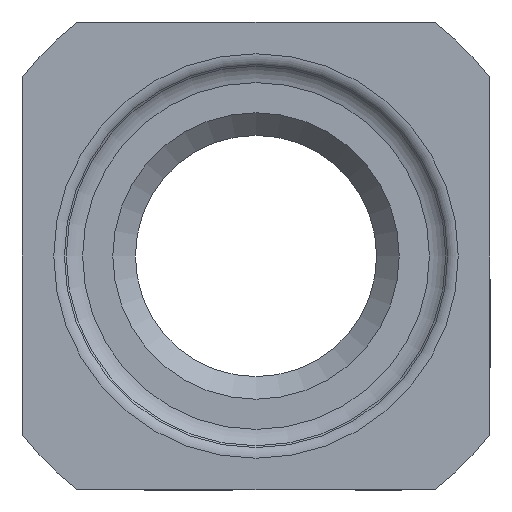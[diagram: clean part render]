
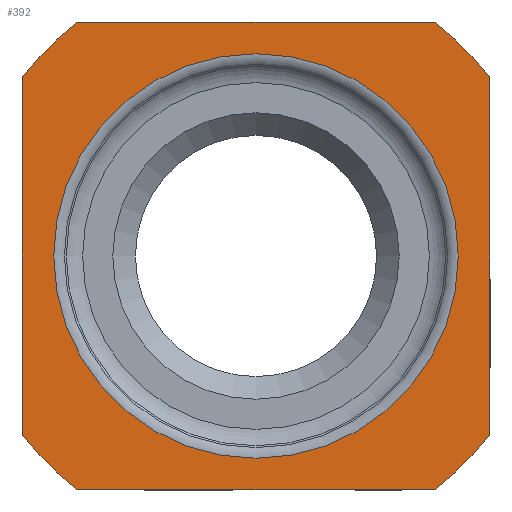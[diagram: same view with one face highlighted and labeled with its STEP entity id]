
A CAD part, front view. The second image highlights one B-rep face of the part: STEP entity #392.
In plain terms, the highlighted planar face has unit normal (0, -1, 0).
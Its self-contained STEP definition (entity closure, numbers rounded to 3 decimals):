
#27=FACE_BOUND('',#78,.T.);
#31=PLANE('',#454);
#51=FACE_OUTER_BOUND('',#77,.T.);
#77=EDGE_LOOP('',(#294,#295,#296,#297,#298,#299,#300,#301));
#78=EDGE_LOOP('',(#302));
#103=LINE('',#669,#121);
#104=LINE('',#673,#122);
#105=LINE('',#677,#123);
#106=LINE('',#680,#124);
#121=VECTOR('',#543,10.);
#122=VECTOR('',#546,10.);
#123=VECTOR('',#549,10.);
#124=VECTOR('',#552,10.);
#143=CIRCLE('',#448,6.707);
#148=CIRCLE('',#455,9.75);
#149=CIRCLE('',#456,9.75);
#150=CIRCLE('',#457,9.75);
#151=CIRCLE('',#458,9.75);
#175=VERTEX_POINT('',#653);
#179=VERTEX_POINT('',#665);
#180=VERTEX_POINT('',#666);
#181=VERTEX_POINT('',#668);
#182=VERTEX_POINT('',#670);
#183=VERTEX_POINT('',#672);
#184=VERTEX_POINT('',#674);
#185=VERTEX_POINT('',#676);
#186=VERTEX_POINT('',#678);
#216=EDGE_CURVE('',#175,#175,#143,.T.);
#222=EDGE_CURVE('',#179,#180,#148,.T.);
#223=EDGE_CURVE('',#180,#181,#103,.T.);
#224=EDGE_CURVE('',#181,#182,#149,.T.);
#225=EDGE_CURVE('',#182,#183,#104,.T.);
#226=EDGE_CURVE('',#183,#184,#150,.T.);
#227=EDGE_CURVE('',#184,#185,#105,.T.);
#228=EDGE_CURVE('',#185,#186,#151,.T.);
#229=EDGE_CURVE('',#186,#179,#106,.T.);
#294=ORIENTED_EDGE('',*,*,#222,.T.);
#295=ORIENTED_EDGE('',*,*,#223,.T.);
#296=ORIENTED_EDGE('',*,*,#224,.T.);
#297=ORIENTED_EDGE('',*,*,#225,.T.);
#298=ORIENTED_EDGE('',*,*,#226,.T.);
#299=ORIENTED_EDGE('',*,*,#227,.T.);
#300=ORIENTED_EDGE('',*,*,#228,.T.);
#301=ORIENTED_EDGE('',*,*,#229,.T.);
#302=ORIENTED_EDGE('',*,*,#216,.F.);
#392=ADVANCED_FACE('',(#51,#27),#31,.T.);
#448=AXIS2_PLACEMENT_3D('',#654,#526,#527);
#454=AXIS2_PLACEMENT_3D('',#664,#539,#540);
#455=AXIS2_PLACEMENT_3D('',#667,#541,#542);
#456=AXIS2_PLACEMENT_3D('',#671,#544,#545);
#457=AXIS2_PLACEMENT_3D('',#675,#547,#548);
#458=AXIS2_PLACEMENT_3D('',#679,#550,#551);
#526=DIRECTION('center_axis',(0.,-1.,0.));
#527=DIRECTION('ref_axis',(0.,0.,-1.));
#539=DIRECTION('center_axis',(0.,-1.,0.));
#540=DIRECTION('ref_axis',(0.,0.,-1.));
#541=DIRECTION('center_axis',(0.,-1.,0.));
#542=DIRECTION('ref_axis',(0.,0.,1.));
#543=DIRECTION('',(0.,0.,-1.));
#544=DIRECTION('center_axis',(0.,-1.,0.));
#545=DIRECTION('ref_axis',(0.,0.,1.));
#546=DIRECTION('',(1.,0.,0.));
#547=DIRECTION('center_axis',(0.,-1.,0.));
#548=DIRECTION('ref_axis',(0.,0.,1.));
#549=DIRECTION('',(0.,0.,1.));
#550=DIRECTION('center_axis',(0.,-1.,0.));
#551=DIRECTION('ref_axis',(0.,0.,1.));
#552=DIRECTION('',(-1.,0.,0.));
#653=CARTESIAN_POINT('',(0.,-5.5,-6.707));
#654=CARTESIAN_POINT('Origin',(0.,-5.5,0.));
#664=CARTESIAN_POINT('Origin',(0.,-5.5,0.));
#665=CARTESIAN_POINT('',(-5.903,-5.5,7.76));
#666=CARTESIAN_POINT('',(-7.76,-5.5,5.903));
#667=CARTESIAN_POINT('Origin',(0.,-5.5,0.));
#668=CARTESIAN_POINT('',(-7.76,-5.5,-5.903));
#669=CARTESIAN_POINT('',(-7.76,-5.5,-7.76));
#670=CARTESIAN_POINT('',(-5.903,-5.5,-7.76));
#671=CARTESIAN_POINT('Origin',(0.,-5.5,0.));
#672=CARTESIAN_POINT('',(5.903,-5.5,-7.76));
#673=CARTESIAN_POINT('',(7.76,-5.5,-7.76));
#674=CARTESIAN_POINT('',(7.76,-5.5,-5.903));
#675=CARTESIAN_POINT('Origin',(0.,-5.5,0.));
#676=CARTESIAN_POINT('',(7.76,-5.5,5.903));
#677=CARTESIAN_POINT('',(7.76,-5.5,7.76));
#678=CARTESIAN_POINT('',(5.903,-5.5,7.76));
#679=CARTESIAN_POINT('Origin',(0.,-5.5,0.));
#680=CARTESIAN_POINT('',(-7.76,-5.5,7.76));
